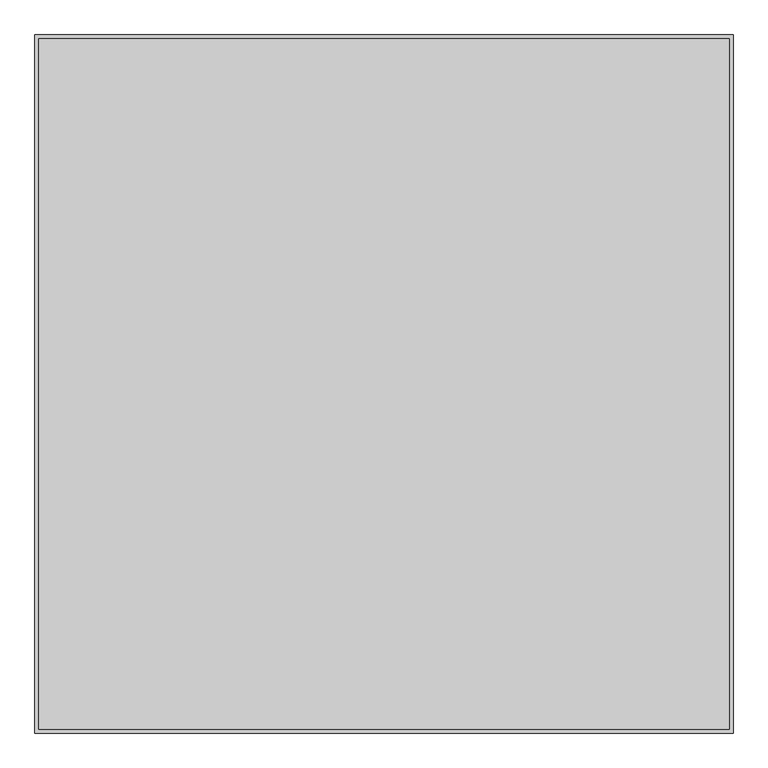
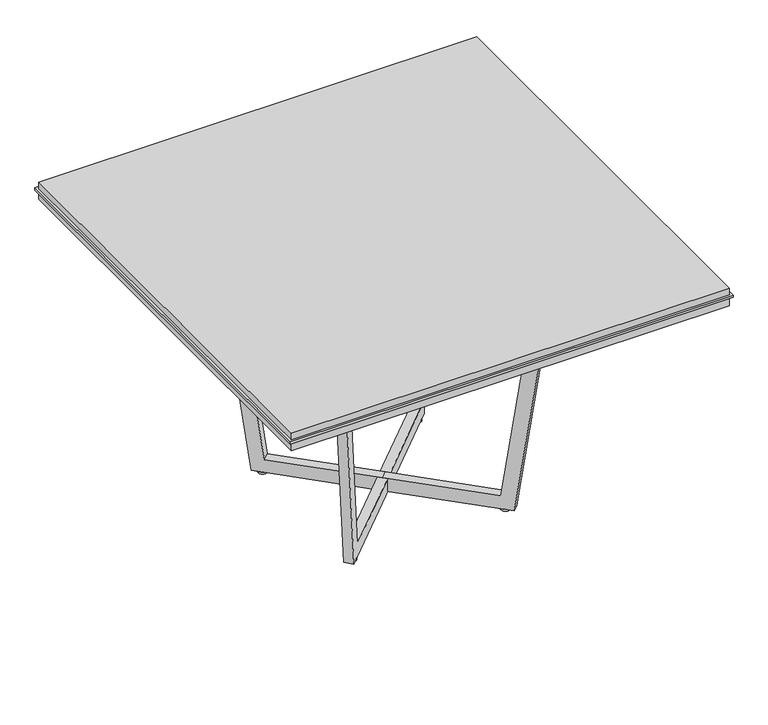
"""IFC4 building model written with IfcOpenShell, lengths in millimetres: furniture geometry, Knoll_Datesweiser_Tables_Meeting_Highline_Square : 48W Caesartone Open."""

from ifc_helpers import new_model, si_unit, point, frame, frame_2d, origin, origin_with_axes, place, context, project, spatial, polyline, circle_curve, trimmed, segment, composite_curve, outline, extrude, source, transform, mapped, element, save


def furniture_9b58214c(model_context):
    return source(origin(), model_context, "Body", "SweptSolid", [
        extrude(outline(polyline([(609.6, 609.6), (609.6, -609.6), (-609.6, -609.6), (-609.6, 609.6), (609.6, 609.6)])), frame((0.0, 0.0, 698.5), z_axis=(0.0, 0.0, 1.0), x_axis=(1.0, 0.0, 0.0)), (0.0, 0.0, 1.0), 25.4),
        extrude(outline(polyline([(609.6, 609.6), (609.6, -609.6), (-609.6, -609.6), (-609.6, 609.6), (609.6, 609.6)])), frame((0.0, 0.0, 730.25), z_axis=(0.0, 0.0, 1.0), x_axis=(1.0, 0.0, 0.0)), (0.0, 0.0, 1.0), 19.05),
        extrude(outline(polyline([(615.95, 615.95), (615.95, -615.95), (-615.95, -615.95), (-615.95, 615.95), (615.95, 615.95)])), frame((0.0, 0.0, 723.9), z_axis=(0.0, 0.0, 1.0), x_axis=(1.0, 0.0, 0.0)), (0.0, 0.0, 1.0), 6.35),
        extrude(outline(composite_curve([segment(trimmed(circle_curve(frame_2d((-214.2640473, -214.2640473)), 12.7), [point((-201.5640473, -214.2640473))], [point((-226.9640473, -214.2640473))], False, "CARTESIAN"), True, "CONTINUOUS"), segment(trimmed(circle_curve(frame_2d((-214.2640473, -214.2640473)), 12.7), [point((-226.9640473, -214.2640473))], [point((-201.5640473, -214.2640473))], False, "CARTESIAN"), True, "CONTINUOUS")], self_intersect=False)), origin_with_axes(), (0.0, 0.0, 1.0), 5.9867797),
        extrude(outline(composite_curve([segment(trimmed(circle_curve(frame_2d((-214.2640473, 214.2640473)), 12.7), [point((-201.5640473, 214.2640473))], [point((-226.9640473, 214.2640473))], False, "CARTESIAN"), True, "CONTINUOUS"), segment(trimmed(circle_curve(frame_2d((-214.2640473, 214.2640473)), 12.7), [point((-226.9640473, 214.2640473))], [point((-201.5640473, 214.2640473))], False, "CARTESIAN"), True, "CONTINUOUS")], self_intersect=False)), origin_with_axes(), (0.0, 0.0, 1.0), 5.9867797),
        extrude(outline(composite_curve([segment(trimmed(circle_curve(frame_2d((214.2640473, -214.2640473)), 12.7), [point((226.9640473, -214.2640473))], [point((201.5640473, -214.2640473))], False, "CARTESIAN"), True, "CONTINUOUS"), segment(trimmed(circle_curve(frame_2d((214.2640473, -214.2640473)), 12.7), [point((201.5640473, -214.2640473))], [point((226.9640473, -214.2640473))], False, "CARTESIAN"), True, "CONTINUOUS")], self_intersect=False)), origin_with_axes(), (0.0, 0.0, 1.0), 5.9867797),
        extrude(outline(composite_curve([segment(trimmed(circle_curve(frame_2d((214.2640473, 214.2640473)), 12.7), [point((226.9640473, 214.2640473))], [point((201.5640473, 214.2640473))], False, "CARTESIAN"), True, "CONTINUOUS"), segment(trimmed(circle_curve(frame_2d((214.2640473, 214.2640473)), 12.7), [point((201.5640473, 214.2640473))], [point((226.9640473, 214.2640473))], False, "CARTESIAN"), True, "CONTINUOUS")], self_intersect=False)), origin_with_axes(), (0.0, 0.0, 1.0), 5.9867797),
        extrude(outline(polyline([(-328.4154116, 0.0), (0.0, 0.0), (96.4293466, -692.6387226), (57.9549435, -692.5888898), (-33.1691487, -38.0570712), (-328.4642085, -37.6745992), (-623.7592682, -37.2921272), (-716.578577, -691.5856987), (-755.0529801, -691.5358658), (-656.8297213, 0.8507388), (-328.4154116, 0.0)])), frame((223.2443137, -241.2048259, 5.9867797), z_axis=(0.7071067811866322, 0.7071067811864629, 0.0), x_axis=(0.7071061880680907, -0.70710618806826, -0.001295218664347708)), (0.0, 0.0, 1.0), 25.4),
        extrude(outline(polyline([(328.4154116, 0.0), (656.8297213, 0.8507388), (755.0529801, -691.5358658), (716.578577, -691.5856987), (623.7592682, -37.2921272), (328.4642085, -37.6745992), (33.1691487, -38.0570712), (-57.9549435, -692.5888898), (-96.4293466, -692.6387226), (0.0, 0.0), (328.4154116, 0.0)])), frame((-223.2443137, -241.2048259, 5.9867797), z_axis=(-0.707106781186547, 0.7071067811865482, 0.0), x_axis=(0.7071061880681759, 0.7071061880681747, 0.001295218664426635)), (0.0, 0.0, 1.0), 25.4),
    ])


if __name__ == "__main__":
    model = new_model("IFC4")
    model_context = context("Model", 3, world=origin())
    ifc_project = project(units=[si_unit("LENGTHUNIT", "METRE", prefix="MILLI")], contexts=[model_context])
    site = spatial("IfcSite", under=ifc_project)
    building = spatial("IfcBuilding", under=site)
    placement = place(None, origin())
    furniture_shape = furniture_9b58214c(model_context)
    element("IfcFurniture", 1, ObjectType="Knoll_Datesweiser_Tables_Meeting_Highline_Square : 48W Caesartone Open", at=placement, inside=building, context=model_context, shape_type="MappedRepresentation", body=[
        mapped(furniture_shape, transform((0.0, 0.0, 0.0), x_axis=(1.0, 0.0, 0.0), y_axis=(0.0, 1.0, 0.0), z_axis=(0.0, 0.0, 1.0))),
    ])
    save(model, "model.ifc")
